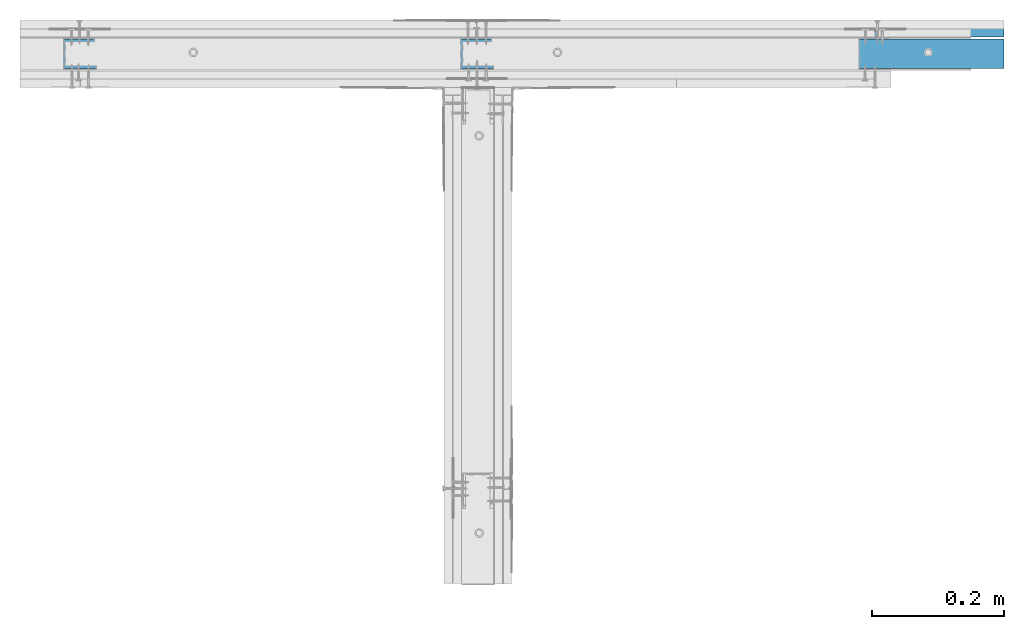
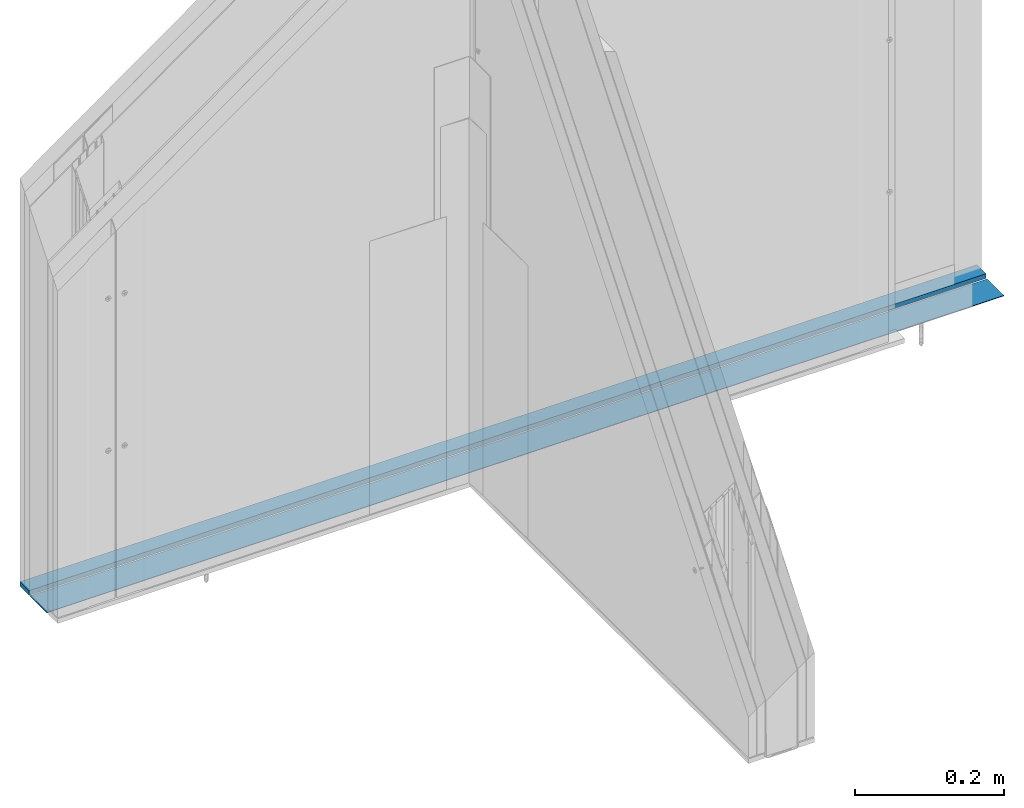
# One storey, part 3 of 89: 2 walls.
"""IFC2X3 building model written with IfcOpenShell, lengths in millimetres."""

from ifc_helpers import new_model, entity, si_unit, converted_unit, direction, frame, origin, origin_with_axes, place, context, project, spatial, faceted_brep, element, save


model = new_model("IFC2X3")

# Units and contexts
model_context = context("Model", 3, precision=1e-05, world=origin(), true_north=direction((0.0, 1.0, 0.0)))
ifc_project = project(units=[si_unit("LENGTHUNIT", "METRE", prefix="MILLI"), si_unit("AREAUNIT", "SQUARE_METRE"), si_unit("VOLUMEUNIT", "CUBIC_METRE"), converted_unit("PLANEANGLEUNIT", "DEGREE", entity("IfcPlaneAngleMeasure", 0.01745), si_unit("PLANEANGLEUNIT", "RADIAN"), dimensions=[0, 0, 0, 0, 0, 0, 0]), si_unit("SOLIDANGLEUNIT", "STERADIAN"), si_unit("MASSUNIT", "GRAM"), si_unit("TIMEUNIT", "SECOND"), si_unit("THERMODYNAMICTEMPERATUREUNIT", "DEGREE_CELSIUS"), si_unit("LUMINOUSINTENSITYUNIT", "LUMEN")], contexts=[model_context])

# Site, building, storey
site_placement = place(None, origin_with_axes())
site = spatial("IfcSite", under=ifc_project, at=site_placement, Name="Default Site", CompositionType="ELEMENT")
building_placement = place(site_placement, origin_with_axes())
building = spatial("IfcBuilding", under=site, at=building_placement, Name="Default Building", CompositionType="ELEMENT")
storey_placement = place(building_placement, origin_with_axes())
storey = spatial("IfcBuildingStorey", under=building, at=storey_placement, Name="Default Building Storey", CompositionType="ELEMENT", Elevation=0.0)

# Walls
wall_1_placement = place(storey_placement, frame((3611.155868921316, 2098.455598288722, 2.384025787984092), z_axis=(0.0, 0.0, 1.0), x_axis=(1.0, 0.0, 0.0)))
element("IfcWall", 1, at=wall_1_placement, inside=storey, Name="Dedykowana masa szpachlowa Rigips - konstrukcyjna", context=model_context, shape_type="Brep", body=[
    faceted_brep([(0.0, 24.6461696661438, 0.0), (0.0, 0.0, 0.0), (-1486.130735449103, 0.0, 0.0), (-1486.130735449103, 24.6461696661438, 0.0), (0.0, 0.0, 7.614392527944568), (-1486.130735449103, 0.0, 7.614392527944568), (0.0, 24.6461696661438, 7.614392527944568), (-1486.130735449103, 24.6461696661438, 7.614392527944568)], [[[0, 1, 2, 3]], [[1, 4, 5, 2]], [[4, 6, 7, 5]], [[6, 0, 3, 7]], [[7, 3, 2, 5]], [[0, 6, 4, 1]]]),
])
wall_2_placement = place(storey_placement, frame((3390.946396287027, 5528.384991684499, 8.39039523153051), z_axis=(7.268591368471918e-14, -6.858158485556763e-13, 1.0), x_axis=(1.0, -1.018434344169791e-16, -7.988767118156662e-14)))
element("IfcWall", 2, at=wall_2_placement, inside=storey, Name="Taśma uszczelniająca piankowa RIGIPS", context=model_context, shape_type="Brep", body=[
    faceted_brep([(-1265.921262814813, -3477.783223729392, -5.000000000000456), (-1265.921262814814, -3477.862841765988, -6.00636944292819), (-1265.921262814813, -3432.691889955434, -5.864971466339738), (-1265.921262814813, -3432.783223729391, -5.000000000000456), (220.2094726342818, -3477.862841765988, -6.006369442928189), (220.2094726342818, -3477.783223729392, -5.000000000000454), (220.2094726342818, -3432.783223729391, -5.000000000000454), (220.2094726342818, -3432.691889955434, -5.864971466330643)], [[[0, 1, 2, 3]], [[4, 5, 6, 7]], [[5, 0, 3, 6]], [[6, 3, 2, 7]], [[7, 2, 1, 4]], [[4, 1, 0, 5]]]),
])

save(model, "model.ifc")
